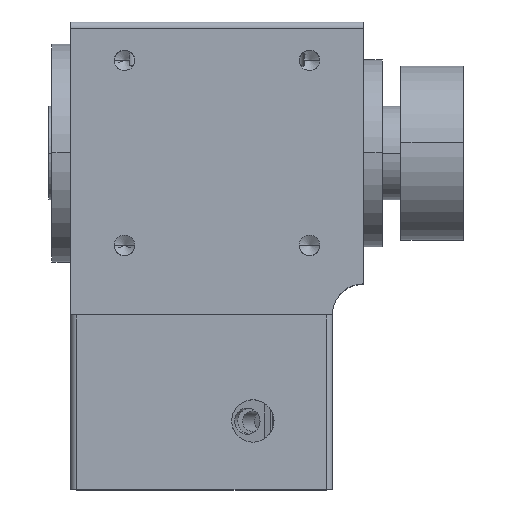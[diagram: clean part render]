
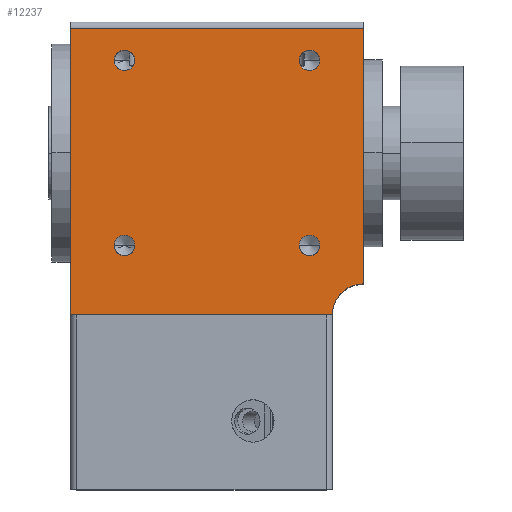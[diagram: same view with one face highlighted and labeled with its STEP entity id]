
A CAD part, top view. The second image highlights one B-rep face of the part: STEP entity #12237.
In plain terms, the highlighted planar face has unit normal (0, 0, 1).
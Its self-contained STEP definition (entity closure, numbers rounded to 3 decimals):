
#87 = VERTEX_POINT ( 'NONE', #1979 ) ;
#153 = VERTEX_POINT ( 'NONE', #12003 ) ;
#248 = AXIS2_PLACEMENT_3D ( 'NONE', #29056, #15289, #1580 ) ;
#283 = EDGE_CURVE ( 'NONE', #20509, #153, #7430, .T. ) ;
#536 = CARTESIAN_POINT ( 'NONE',  ( 39.699, 17.349, 21. ) ) ;
#577 = DIRECTION ( 'NONE',  ( 0., 0., 1. ) ) ;
#758 = DIRECTION ( 'NONE',  ( 1., 0., 0. ) ) ;
#1403 = PLANE ( 'NONE',  #20072 ) ;
#1457 = VERTEX_POINT ( 'NONE', #13717 ) ;
#1580 = DIRECTION ( 'NONE',  ( 1., 0., 0. ) ) ;
#1661 = CARTESIAN_POINT ( 'NONE',  ( 3., -23.5, 21. ) ) ;
#1702 = CARTESIAN_POINT ( 'NONE',  ( 42.999, -12.349, 21. ) ) ;
#1979 = CARTESIAN_POINT ( 'NONE',  ( 10.001, -12.349, 21. ) ) ;
#2213 = EDGE_CURVE ( 'NONE', #17665, #11166, #20302, .T. ) ;
#2287 = DIRECTION ( 'NONE',  ( 0., 1., 0. ) ) ;
#2292 = DIRECTION ( 'NONE',  ( 1., 0., 0. ) ) ;
#2999 = VERTEX_POINT ( 'NONE', #536 ) ;
#3809 = DIRECTION ( 'NONE',  ( 0., 0., -1. ) ) ;
#3907 = DIRECTION ( 'NONE',  ( 0., 0., 1. ) ) ;
#4076 = VECTOR ( 'NONE', #4512, 1000. ) ;
#4093 = ORIENTED_EDGE ( 'NONE', *, *, #5695, .F. ) ;
#4114 = CARTESIAN_POINT ( 'NONE',  ( 13.301, -12.349, 21. ) ) ;
#4122 = AXIS2_PLACEMENT_3D ( 'NONE', #13300, #29353, #15581 ) ;
#4512 = DIRECTION ( 'NONE',  ( -1., 0., 0. ) ) ;
#4799 = DIRECTION ( 'NONE',  ( 0., 0., 1. ) ) ;
#5691 = FACE_OUTER_BOUND ( 'NONE', #21851, .T. ) ;
#5695 = EDGE_CURVE ( 'NONE', #16160, #8626, #9802, .T. ) ;
#5799 = CARTESIAN_POINT ( 'NONE',  ( 45., -23.5, 21. ) ) ;
#6262 = DIRECTION ( 'NONE',  ( 0., 0., 1. ) ) ;
#6516 = CARTESIAN_POINT ( 'NONE',  ( 11.651, 17.349, 21. ) ) ;
#7247 = DIRECTION ( 'NONE',  ( -1., 0., 0. ) ) ;
#7346 = EDGE_LOOP ( 'NONE', ( #26832, #20724 ) ) ;
#7430 = CIRCLE ( 'NONE', #25788, 1.65 ) ;
#7543 = ORIENTED_EDGE ( 'NONE', *, *, #283, .F. ) ;
#7634 = DIRECTION ( 'NONE',  ( 0., 0., 1. ) ) ;
#7909 = VECTOR ( 'NONE', #7247, 1000. ) ;
#7978 = CARTESIAN_POINT ( 'NONE',  ( 39.699, -12.349, 21. ) ) ;
#8626 = VERTEX_POINT ( 'NONE', #5799 ) ;
#8893 = EDGE_CURVE ( 'NONE', #10234, #1457, #17205, .T. ) ;
#9520 = ORIENTED_EDGE ( 'NONE', *, *, #26547, .F. ) ;
#9705 = EDGE_LOOP ( 'NONE', ( #7543, #28431 ) ) ;
#9802 = CIRCLE ( 'NONE', #24807, 5. ) ;
#10198 = LINE ( 'NONE', #18236, #4076 ) ;
#10234 = VERTEX_POINT ( 'NONE', #1661 ) ;
#10524 = EDGE_CURVE ( 'NONE', #153, #20509, #16423, .T. ) ;
#11166 = VERTEX_POINT ( 'NONE', #1702 ) ;
#11193 = VERTEX_POINT ( 'NONE', #4114 ) ;
#11680 = EDGE_LOOP ( 'NONE', ( #21876, #18339 ) ) ;
#11791 = FACE_BOUND ( 'NONE', #7346, .T. ) ;
#11910 = VERTEX_POINT ( 'NONE', #29596 ) ;
#11947 = VECTOR ( 'NONE', #25858, 1000. ) ;
#12003 = CARTESIAN_POINT ( 'NONE',  ( 10.001, 17.349, 21. ) ) ;
#12059 = CARTESIAN_POINT ( 'NONE',  ( 53., -23.5, 21. ) ) ;
#12237 = ADVANCED_FACE ( 'NONE', ( #5691, #29379, #11791, #23278, #17154 ), #1403, .F. ) ;
#12812 = CARTESIAN_POINT ( 'NONE',  ( 53., -23.5, 21. ) ) ;
#13300 = CARTESIAN_POINT ( 'NONE',  ( 41.349, 17.349, 21. ) ) ;
#13614 = ORIENTED_EDGE ( 'NONE', *, *, #21427, .F. ) ;
#13717 = CARTESIAN_POINT ( 'NONE',  ( 3., 22.5, 21. ) ) ;
#13735 = EDGE_LOOP ( 'NONE', ( #28535, #25928 ) ) ;
#14297 = CARTESIAN_POINT ( 'NONE',  ( 11.651, -12.349, 21. ) ) ;
#14475 = DIRECTION ( 'NONE',  ( 0., 0., 1. ) ) ;
#14593 = EDGE_CURVE ( 'NONE', #27167, #2999, #29292, .T. ) ;
#14655 = CARTESIAN_POINT ( 'NONE',  ( 50., -23.5, 21. ) ) ;
#15289 = DIRECTION ( 'NONE',  ( 0., 0., 1. ) ) ;
#15365 = AXIS2_PLACEMENT_3D ( 'NONE', #21372, #7634, #23673 ) ;
#15489 = CARTESIAN_POINT ( 'NONE',  ( 13.301, 17.349, 21. ) ) ;
#15581 = DIRECTION ( 'NONE',  ( 1., 0., 0. ) ) ;
#15999 = DIRECTION ( 'NONE',  ( 0., 0., 1. ) ) ;
#16160 = VERTEX_POINT ( 'NONE', #21542 ) ;
#16423 = CIRCLE ( 'NONE', #16784, 1.65 ) ;
#16589 = DIRECTION ( 'NONE',  ( 1., 0., 0. ) ) ;
#16784 = AXIS2_PLACEMENT_3D ( 'NONE', #28251, #14475, #758 ) ;
#16921 = EDGE_CURVE ( 'NONE', #11910, #1457, #10198, .T. ) ;
#17154 = FACE_BOUND ( 'NONE', #11680, .T. ) ;
#17205 = LINE ( 'NONE', #18195, #22589 ) ;
#17422 = AXIS2_PLACEMENT_3D ( 'NONE', #19984, #6262, #22304 ) ;
#17630 = CARTESIAN_POINT ( 'NONE',  ( 41.349, -12.349, 21. ) ) ;
#17665 = VERTEX_POINT ( 'NONE', #7978 ) ;
#17789 = EDGE_CURVE ( 'NONE', #11193, #87, #21643, .T. ) ;
#18022 = LINE ( 'NONE', #25657, #11947 ) ;
#18195 = CARTESIAN_POINT ( 'NONE',  ( 3., -23.5, 21. ) ) ;
#18236 = CARTESIAN_POINT ( 'NONE',  ( 53., 22.5, 21. ) ) ;
#18339 = ORIENTED_EDGE ( 'NONE', *, *, #25675, .F. ) ;
#18413 = AXIS2_PLACEMENT_3D ( 'NONE', #14297, #577, #16589 ) ;
#19820 = DIRECTION ( 'NONE',  ( -1., 0., 0. ) ) ;
#19932 = DIRECTION ( 'NONE',  ( 1., 0., 0. ) ) ;
#19984 = CARTESIAN_POINT ( 'NONE',  ( 11.651, -12.349, 21. ) ) ;
#20072 = AXIS2_PLACEMENT_3D ( 'NONE', #12812, #3809, #19820 ) ;
#20097 = LINE ( 'NONE', #12059, #7909 ) ;
#20302 = CIRCLE ( 'NONE', #248, 1.65 ) ;
#20509 = VERTEX_POINT ( 'NONE', #15489 ) ;
#20724 = ORIENTED_EDGE ( 'NONE', *, *, #20755, .F. ) ;
#20755 = EDGE_CURVE ( 'NONE', #87, #11193, #24818, .T. ) ;
#20905 = ORIENTED_EDGE ( 'NONE', *, *, #16921, .T. ) ;
#21372 = CARTESIAN_POINT ( 'NONE',  ( 41.349, 17.349, 21. ) ) ;
#21427 = EDGE_CURVE ( 'NONE', #8626, #10234, #20097, .T. ) ;
#21542 = CARTESIAN_POINT ( 'NONE',  ( 50., -18.5, 21. ) ) ;
#21643 = CIRCLE ( 'NONE', #17422, 1.65 ) ;
#21851 = EDGE_LOOP ( 'NONE', ( #9520, #20905, #27129, #13614, #4093 ) ) ;
#21876 = ORIENTED_EDGE ( 'NONE', *, *, #14593, .F. ) ;
#22304 = DIRECTION ( 'NONE',  ( 1., 0., 0. ) ) ;
#22589 = VECTOR ( 'NONE', #2287, 1000. ) ;
#23278 = FACE_BOUND ( 'NONE', #13735, .T. ) ;
#23304 = AXIS2_PLACEMENT_3D ( 'NONE', #17630, #3907, #19932 ) ;
#23673 = DIRECTION ( 'NONE',  ( 1., 0., 0. ) ) ;
#24807 = AXIS2_PLACEMENT_3D ( 'NONE', #14655, #15999, #2292 ) ;
#24818 = CIRCLE ( 'NONE', #18413, 1.65 ) ;
#25224 = DIRECTION ( 'NONE',  ( 1., 0., 0. ) ) ;
#25657 = CARTESIAN_POINT ( 'NONE',  ( 50., -23.5, 21. ) ) ;
#25675 = EDGE_CURVE ( 'NONE', #2999, #27167, #27796, .T. ) ;
#25788 = AXIS2_PLACEMENT_3D ( 'NONE', #6516, #4799, #25224 ) ;
#25858 = DIRECTION ( 'NONE',  ( 0., -1., 0. ) ) ;
#25928 = ORIENTED_EDGE ( 'NONE', *, *, #2213, .F. ) ;
#26307 = CARTESIAN_POINT ( 'NONE',  ( 42.999, 17.349, 21. ) ) ;
#26547 = EDGE_CURVE ( 'NONE', #11910, #16160, #18022, .T. ) ;
#26832 = ORIENTED_EDGE ( 'NONE', *, *, #17789, .F. ) ;
#27019 = CIRCLE ( 'NONE', #23304, 1.65 ) ;
#27129 = ORIENTED_EDGE ( 'NONE', *, *, #8893, .F. ) ;
#27167 = VERTEX_POINT ( 'NONE', #26307 ) ;
#27271 = EDGE_CURVE ( 'NONE', #11166, #17665, #27019, .T. ) ;
#27796 = CIRCLE ( 'NONE', #15365, 1.65 ) ;
#28251 = CARTESIAN_POINT ( 'NONE',  ( 11.651, 17.349, 21. ) ) ;
#28431 = ORIENTED_EDGE ( 'NONE', *, *, #10524, .F. ) ;
#28535 = ORIENTED_EDGE ( 'NONE', *, *, #27271, .F. ) ;
#29056 = CARTESIAN_POINT ( 'NONE',  ( 41.349, -12.349, 21. ) ) ;
#29292 = CIRCLE ( 'NONE', #4122, 1.65 ) ;
#29353 = DIRECTION ( 'NONE',  ( 0., 0., 1. ) ) ;
#29379 = FACE_BOUND ( 'NONE', #9705, .T. ) ;
#29596 = CARTESIAN_POINT ( 'NONE',  ( 50., 22.5, 21. ) ) ;
